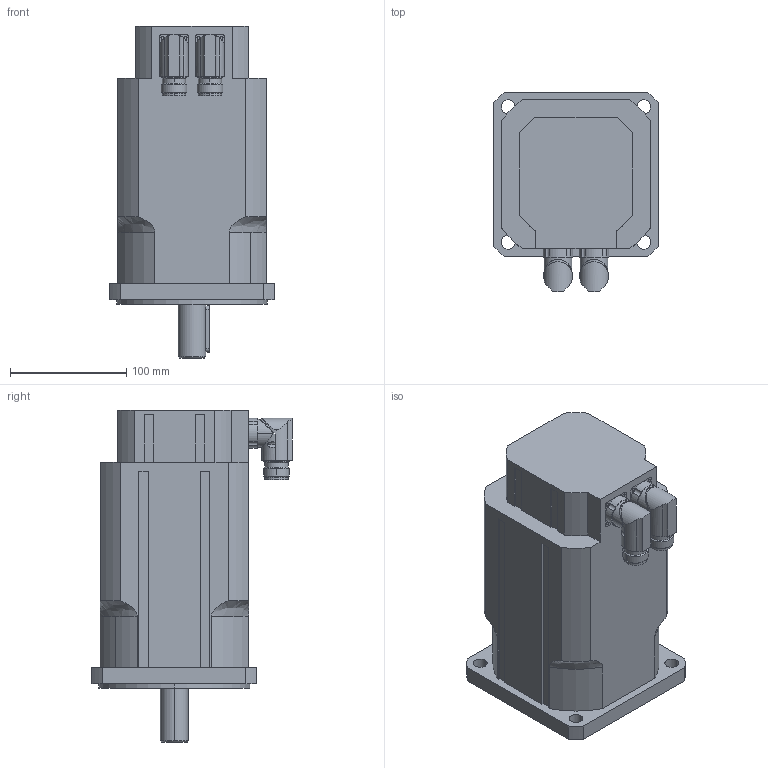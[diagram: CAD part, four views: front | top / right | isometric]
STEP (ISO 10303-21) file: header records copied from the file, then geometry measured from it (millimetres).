
FILE_DESCRIPTION(('STEP AP203'),'2;1');
FILE_NAME('MT5-1350.stp','2006-08-28T20:14:46',(''),(''),'2005.2.102','THINKDESIGN','');
FILE_SCHEMA(('CONFIG_CONTROL_DESIGN'));
Length unit declared in the file: millimetre
Bounding box: 142 x 172.5 x 286 mm (x, y, z)
Volume: 3552478.4 mm3; surface area: 179095.3 mm2
Topology: 3 solids, 3 shells, 257 faces, 681 edges, 439 vertices
Faces by surface type: cylinder 108, plane 107, bspline 42
Entity records: 9366 total; most frequent: CARTESIAN_POINT 2935, ORIENTED_EDGE 1358, DIRECTION 1309, EDGE_CURVE 679, AXIS2_PLACEMENT_3D 483, VERTEX_POINT 439, VECTOR 343, LINE 343
